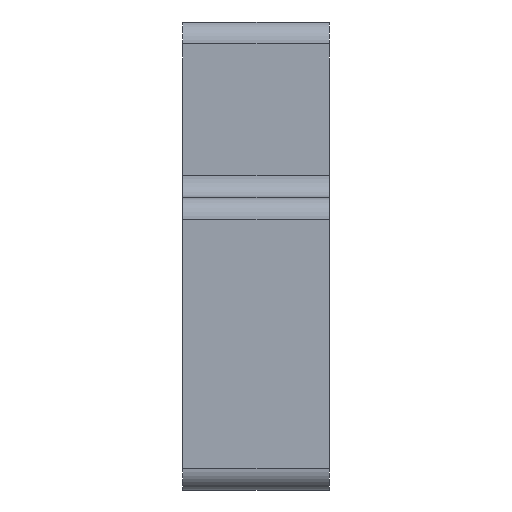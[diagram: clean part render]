
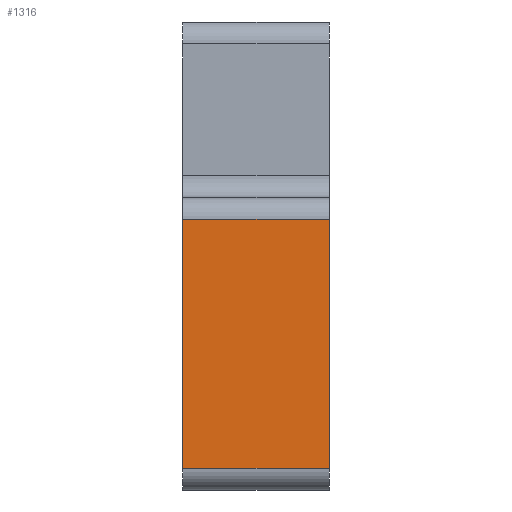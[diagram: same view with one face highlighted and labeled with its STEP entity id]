
A CAD part, left-side view. The second image highlights one B-rep face of the part: STEP entity #1316.
In plain terms, the highlighted planar face has unit normal (-1, 0, 0).
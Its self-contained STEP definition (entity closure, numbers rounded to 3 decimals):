
#17 = CARTESIAN_POINT ( 'NONE',  ( -147.24, 162.48, 18.5 ) ) ;
#65 = AXIS2_PLACEMENT_3D ( 'NONE', #1233, #1381, #1510 ) ;
#86 = ORIENTED_EDGE ( 'NONE', *, *, #92, .T. ) ;
#92 = EDGE_CURVE ( 'NONE', #597, #1351, #1649, .T. ) ;
#147 = VERTEX_POINT ( 'NONE', #1162 ) ;
#198 = VECTOR ( 'NONE', #766, 1000. ) ;
#254 = VERTEX_POINT ( 'NONE', #1454 ) ;
#313 = EDGE_CURVE ( 'NONE', #147, #254, #869, .T. ) ;
#365 = DIRECTION ( 'NONE',  ( 0., 0., -1. ) ) ;
#460 = ORIENTED_EDGE ( 'NONE', *, *, #712, .F. ) ;
#466 = CARTESIAN_POINT ( 'NONE',  ( -147.24, 152.48, 1.5 ) ) ;
#580 = LINE ( 'NONE', #1570, #1584 ) ;
#590 = DIRECTION ( 'NONE',  ( 0., 0., -1. ) ) ;
#597 = VERTEX_POINT ( 'NONE', #1668 ) ;
#609 = VECTOR ( 'NONE', #590, 1000. ) ;
#643 = EDGE_LOOP ( 'NONE', ( #460, #744, #1663, #86 ) ) ;
#684 = DIRECTION ( 'NONE',  ( 0., 1., 0. ) ) ;
#712 = EDGE_CURVE ( 'NONE', #147, #1351, #580, .T. ) ;
#744 = ORIENTED_EDGE ( 'NONE', *, *, #313, .T. ) ;
#746 = CARTESIAN_POINT ( 'NONE',  ( -147.24, 162.48, 20. ) ) ;
#766 = DIRECTION ( 'NONE',  ( 0., -1., 0. ) ) ;
#804 = LINE ( 'NONE', #746, #609 ) ;
#869 = LINE ( 'NONE', #17, #1175 ) ;
#1052 = FACE_OUTER_BOUND ( 'NONE', #643, .T. ) ;
#1162 = CARTESIAN_POINT ( 'NONE',  ( -147.24, 152.48, 18.5 ) ) ;
#1175 = VECTOR ( 'NONE', #684, 1000. ) ;
#1225 = PLANE ( 'NONE',  #65 ) ;
#1233 = CARTESIAN_POINT ( 'NONE',  ( -147.24, 162.48, 20. ) ) ;
#1316 = ADVANCED_FACE ( 'NONE', ( #1052 ), #1225, .F. ) ;
#1351 = VERTEX_POINT ( 'NONE', #466 ) ;
#1381 = DIRECTION ( 'NONE',  ( 1., 0., 0. ) ) ;
#1385 = EDGE_CURVE ( 'NONE', #254, #597, #804, .T. ) ;
#1454 = CARTESIAN_POINT ( 'NONE',  ( -147.24, 162.48, 18.5 ) ) ;
#1510 = DIRECTION ( 'NONE',  ( 0., 0., -1. ) ) ;
#1570 = CARTESIAN_POINT ( 'NONE',  ( -147.24, 152.48, 20. ) ) ;
#1584 = VECTOR ( 'NONE', #365, 1000. ) ;
#1649 = LINE ( 'NONE', #1693, #198 ) ;
#1663 = ORIENTED_EDGE ( 'NONE', *, *, #1385, .T. ) ;
#1668 = CARTESIAN_POINT ( 'NONE',  ( -147.24, 162.48, 1.5 ) ) ;
#1693 = CARTESIAN_POINT ( 'NONE',  ( -147.24, 162.48, 1.5 ) ) ;
